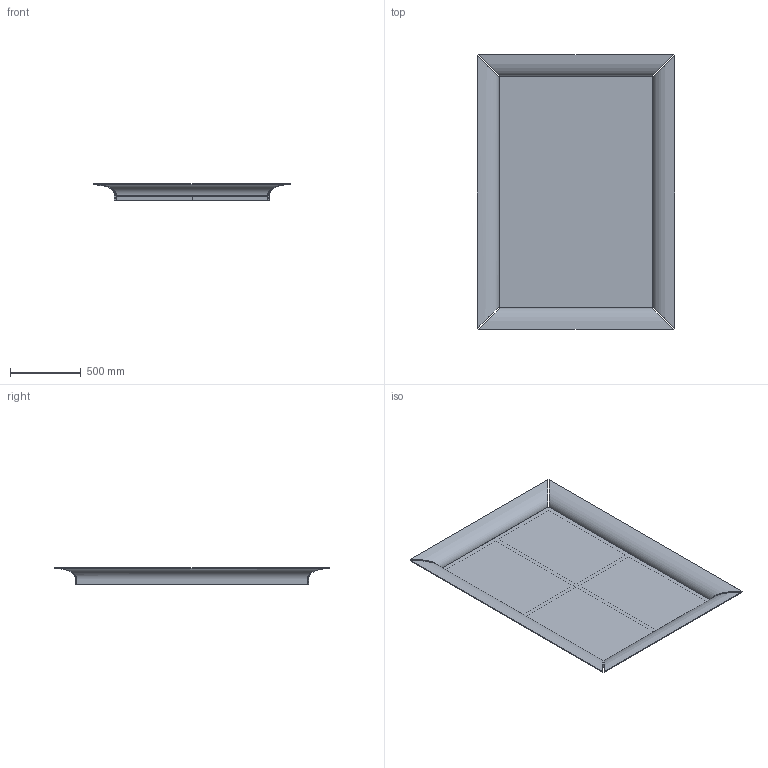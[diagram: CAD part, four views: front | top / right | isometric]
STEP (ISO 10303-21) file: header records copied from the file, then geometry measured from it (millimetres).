
FILE_DESCRIPTION(/* description */ (''),/* implementation_level */ '2;1');
FILE_NAME(/* name */ '640 - Caadre - 140x195',/* time_stamp */ '2012-06-15T11:33:56+02:00',/* author */ (''),/* organization */ (''),/* preprocessor_version */ 'ST-DEVELOPER v10',/* originating_system */ '',/* authorisation */ '');
FILE_SCHEMA (('CONFIG_CONTROL_DESIGN'));
Length unit declared in the file: centimetre
Products named in the file (1): 1
Bounding box: 1394 x 1944 x 119 mm (x, y, z)
Volume: 23860060.4 mm3; surface area: 7227760.5 mm2
Topology: 6 solids, 6 shells, 75 faces, 179 edges, 108 vertices
Faces by surface type: bspline 47, plane 28
Entity records: 2906 total; most frequent: CARTESIAN_POINT 1624, ORIENTED_EDGE 358, EDGE_CURVE 179, B_SPLINE_CURVE_WITH_KNOTS 179, VERTEX_POINT 108, ADVANCED_FACE 75, FACE_OUTER_BOUND 75, EDGE_LOOP 75
